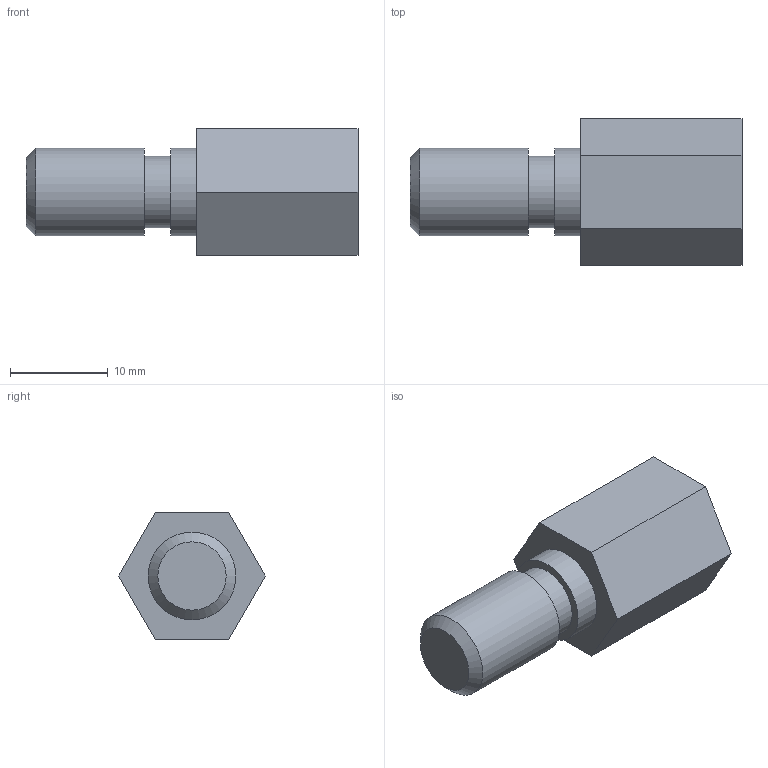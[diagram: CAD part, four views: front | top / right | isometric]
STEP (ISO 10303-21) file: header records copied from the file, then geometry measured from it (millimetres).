
FILE_DESCRIPTION((''),'2;1');
FILE_NAME('Z:\客先\あ行\アオイ\99_その他\3D_DATA\CPR_Series\6CPR-SPV-RC\STEP\203\CPR-SPV-RC1-8.ipt.stp','2008-07-02T09:53:45',(''),(''),'Autodesk Inventor 2009','Autodesk Inventor 2009','');
FILE_SCHEMA(('CONFIG_CONTROL_DESIGN'));
Length unit declared in the file: millimetre
Products named in the file (1): CPR-SPV-RC1-8
Bounding box: 34 x 15.01 x 13 mm (x, y, z)
Volume: 2788.5 mm3; surface area: 1808.1 mm2
Topology: 1 solids, 1 shells, 17 faces, 32 edges, 21 vertices
Faces by surface type: plane 12, cylinder 3, cone 2
Full cylindrical faces by diameter (mm): 7.3 x1, 9 x2
Entity records: 419 total; most frequent: DIRECTION 72, CARTESIAN_POINT 66, ORIENTED_EDGE 54, AXIS2_PLACEMENT_3D 27, EDGE_CURVE 27, EDGE_LOOP 26, VERTEX_POINT 21, VECTOR 18
